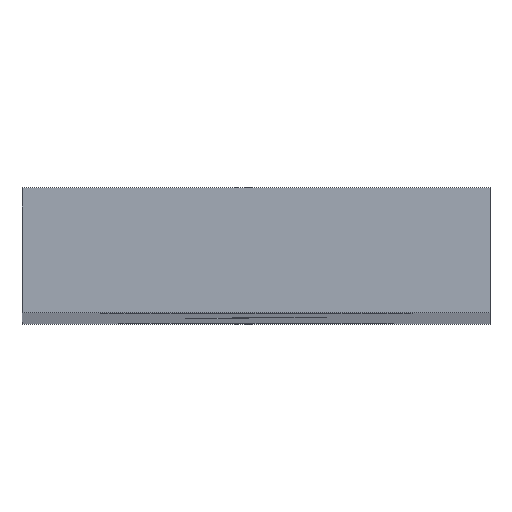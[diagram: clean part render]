
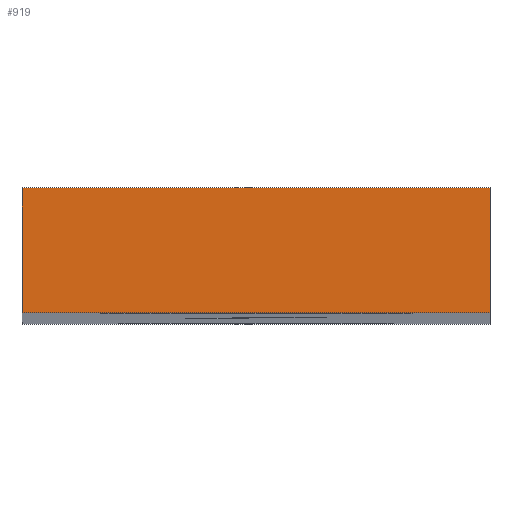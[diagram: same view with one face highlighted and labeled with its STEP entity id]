
A CAD part, top view. The second image highlights one B-rep face of the part: STEP entity #919.
In plain terms, the highlighted planar face has unit normal (0, 0, 1).
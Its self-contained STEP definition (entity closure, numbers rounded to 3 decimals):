
#42 = VERTEX_POINT('',#43);
#43 = CARTESIAN_POINT('',(-36.85,-7.2,44.));
#50 = PLANE('',#51);
#51 = AXIS2_PLACEMENT_3D('',#52,#53,#54);
#52 = CARTESIAN_POINT('',(-36.85,-7.2,-40.));
#53 = DIRECTION('',(1.,0.,0.));
#54 = DIRECTION('',(0.,0.,1.));
#62 = PLANE('',#63);
#63 = AXIS2_PLACEMENT_3D('',#64,#65,#66);
#64 = CARTESIAN_POINT('',(-36.85,-7.2,-40.));
#65 = DIRECTION('',(0.,1.,0.));
#66 = DIRECTION('',(0.,-0.,1.));
#103 = VERTEX_POINT('',#104);
#104 = CARTESIAN_POINT('',(-36.85,-5.6,44.));
#118 = PLANE('',#119);
#119 = AXIS2_PLACEMENT_3D('',#120,#121,#122);
#120 = CARTESIAN_POINT('',(-36.85,-5.6,-40.));
#121 = DIRECTION('',(0.,1.,0.));
#122 = DIRECTION('',(0.,-0.,1.));
#130 = EDGE_CURVE('',#42,#103,#131,.T.);
#131 = SURFACE_CURVE('',#132,(#136,#143),.PCURVE_S1.);
#132 = LINE('',#133,#134);
#133 = CARTESIAN_POINT('',(-36.85,-7.2,44.));
#134 = VECTOR('',#135,1.);
#135 = DIRECTION('',(0.,1.,0.));
#136 = PCURVE('',#50,#137);
#137 = DEFINITIONAL_REPRESENTATION('',(#138),#142);
#138 = LINE('',#139,#140);
#139 = CARTESIAN_POINT('',(84.,0.));
#140 = VECTOR('',#141,1.);
#141 = DIRECTION('',(0.,-1.));
#142 = ( GEOMETRIC_REPRESENTATION_CONTEXT(2) 
PARAMETRIC_REPRESENTATION_CONTEXT() REPRESENTATION_CONTEXT('2D SPACE',''
  ) );
#143 = PCURVE('',#144,#149);
#144 = PLANE('',#145);
#145 = AXIS2_PLACEMENT_3D('',#146,#147,#148);
#146 = CARTESIAN_POINT('',(-36.85,-7.2,44.));
#147 = DIRECTION('',(0.,0.,1.));
#148 = DIRECTION('',(1.,0.,-0.));
#149 = DEFINITIONAL_REPRESENTATION('',(#150),#154);
#150 = LINE('',#151,#152);
#151 = CARTESIAN_POINT('',(0.,0.));
#152 = VECTOR('',#153,1.);
#153 = DIRECTION('',(0.,1.));
#154 = ( GEOMETRIC_REPRESENTATION_CONTEXT(2) 
PARAMETRIC_REPRESENTATION_CONTEXT() REPRESENTATION_CONTEXT('2D SPACE',''
  ) );
#183 = EDGE_CURVE('',#42,#184,#186,.T.);
#184 = VERTEX_POINT('',#185);
#185 = CARTESIAN_POINT('',(-30.85,-7.2,44.));
#186 = SURFACE_CURVE('',#187,(#191,#198),.PCURVE_S1.);
#187 = LINE('',#188,#189);
#188 = CARTESIAN_POINT('',(-36.85,-7.2,44.));
#189 = VECTOR('',#190,1.);
#190 = DIRECTION('',(1.,0.,0.));
#191 = PCURVE('',#62,#192);
#192 = DEFINITIONAL_REPRESENTATION('',(#193),#197);
#193 = LINE('',#194,#195);
#194 = CARTESIAN_POINT('',(84.,0.));
#195 = VECTOR('',#196,1.);
#196 = DIRECTION('',(0.,1.));
#197 = ( GEOMETRIC_REPRESENTATION_CONTEXT(2) 
PARAMETRIC_REPRESENTATION_CONTEXT() REPRESENTATION_CONTEXT('2D SPACE',''
  ) );
#198 = PCURVE('',#144,#199);
#199 = DEFINITIONAL_REPRESENTATION('',(#200),#204);
#200 = LINE('',#201,#202);
#201 = CARTESIAN_POINT('',(0.,0.));
#202 = VECTOR('',#203,1.);
#203 = DIRECTION('',(1.,0.));
#204 = ( GEOMETRIC_REPRESENTATION_CONTEXT(2) 
PARAMETRIC_REPRESENTATION_CONTEXT() REPRESENTATION_CONTEXT('2D SPACE',''
  ) );
#220 = PLANE('',#221);
#221 = AXIS2_PLACEMENT_3D('',#222,#223,#224);
#222 = CARTESIAN_POINT('',(-30.85,-7.2,-40.));
#223 = DIRECTION('',(1.,0.,0.));
#224 = DIRECTION('',(0.,0.,1.));
#919 = ADVANCED_FACE('',(#920),#144,.T.);
#920 = FACE_BOUND('',#921,.T.);
#921 = EDGE_LOOP('',(#922,#923,#924,#947));
#922 = ORIENTED_EDGE('',*,*,#130,.F.);
#923 = ORIENTED_EDGE('',*,*,#183,.T.);
#924 = ORIENTED_EDGE('',*,*,#925,.T.);
#925 = EDGE_CURVE('',#184,#926,#928,.T.);
#926 = VERTEX_POINT('',#927);
#927 = CARTESIAN_POINT('',(-30.85,-5.6,44.));
#928 = SURFACE_CURVE('',#929,(#933,#940),.PCURVE_S1.);
#929 = LINE('',#930,#931);
#930 = CARTESIAN_POINT('',(-30.85,-7.2,44.));
#931 = VECTOR('',#932,1.);
#932 = DIRECTION('',(0.,1.,0.));
#933 = PCURVE('',#144,#934);
#934 = DEFINITIONAL_REPRESENTATION('',(#935),#939);
#935 = LINE('',#936,#937);
#936 = CARTESIAN_POINT('',(6.,0.));
#937 = VECTOR('',#938,1.);
#938 = DIRECTION('',(0.,1.));
#939 = ( GEOMETRIC_REPRESENTATION_CONTEXT(2) 
PARAMETRIC_REPRESENTATION_CONTEXT() REPRESENTATION_CONTEXT('2D SPACE',''
  ) );
#940 = PCURVE('',#220,#941);
#941 = DEFINITIONAL_REPRESENTATION('',(#942),#946);
#942 = LINE('',#943,#944);
#943 = CARTESIAN_POINT('',(84.,0.));
#944 = VECTOR('',#945,1.);
#945 = DIRECTION('',(0.,-1.));
#946 = ( GEOMETRIC_REPRESENTATION_CONTEXT(2) 
PARAMETRIC_REPRESENTATION_CONTEXT() REPRESENTATION_CONTEXT('2D SPACE',''
  ) );
#947 = ORIENTED_EDGE('',*,*,#948,.F.);
#948 = EDGE_CURVE('',#103,#926,#949,.T.);
#949 = SURFACE_CURVE('',#950,(#954,#961),.PCURVE_S1.);
#950 = LINE('',#951,#952);
#951 = CARTESIAN_POINT('',(-36.85,-5.6,44.));
#952 = VECTOR('',#953,1.);
#953 = DIRECTION('',(1.,0.,0.));
#954 = PCURVE('',#144,#955);
#955 = DEFINITIONAL_REPRESENTATION('',(#956),#960);
#956 = LINE('',#957,#958);
#957 = CARTESIAN_POINT('',(0.,1.6));
#958 = VECTOR('',#959,1.);
#959 = DIRECTION('',(1.,0.));
#960 = ( GEOMETRIC_REPRESENTATION_CONTEXT(2) 
PARAMETRIC_REPRESENTATION_CONTEXT() REPRESENTATION_CONTEXT('2D SPACE',''
  ) );
#961 = PCURVE('',#118,#962);
#962 = DEFINITIONAL_REPRESENTATION('',(#963),#967);
#963 = LINE('',#964,#965);
#964 = CARTESIAN_POINT('',(84.,0.));
#965 = VECTOR('',#966,1.);
#966 = DIRECTION('',(0.,1.));
#967 = ( GEOMETRIC_REPRESENTATION_CONTEXT(2) 
PARAMETRIC_REPRESENTATION_CONTEXT() REPRESENTATION_CONTEXT('2D SPACE',''
  ) );
